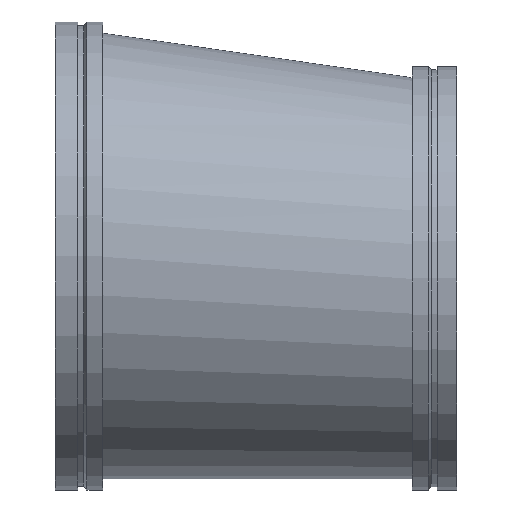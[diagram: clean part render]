
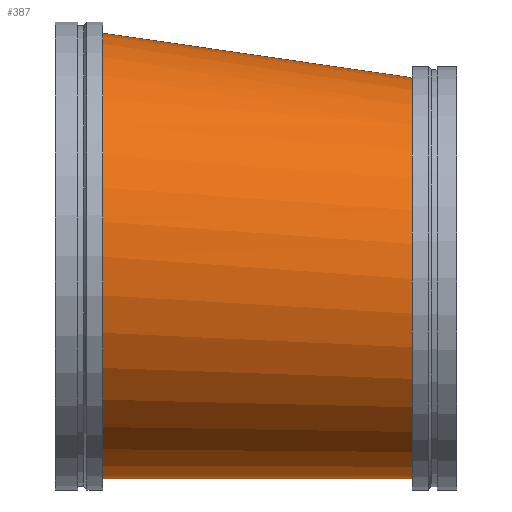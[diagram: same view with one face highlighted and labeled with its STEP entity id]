
A CAD part, top view. The second image highlights one B-rep face of the part: STEP entity #387.
In plain terms, the highlighted free-form (B-spline) face has degree [1, 2] with [2, 9] control points.
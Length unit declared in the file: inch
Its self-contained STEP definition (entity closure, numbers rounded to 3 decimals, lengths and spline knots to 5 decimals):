
#46=B_SPLINE_CURVE_WITH_KNOTS('',1,(#747,#748),.UNSPECIFIED.,.F.,.F.,(2,
2),(-1.395,-0.00037),.UNSPECIFIED.);
#48=(
BOUNDED_SURFACE()
B_SPLINE_SURFACE(1,2,((#729,#730,#731,#732,#733,#734,#735,#736,#737),(#738,
#739,#740,#741,#742,#743,#744,#745,#746)),.UNSPECIFIED.,.F.,.T.,.F.)
B_SPLINE_SURFACE_WITH_KNOTS((2,2),(3,2,2,2,3),(-0.0717,1.4592),
(-3.14159,-1.5708,0.,1.5708,3.14159),
 .UNSPECIFIED.)
GEOMETRIC_REPRESENTATION_ITEM()
RATIONAL_B_SPLINE_SURFACE(((1.,0.707,1.,0.707,1.,
0.707,1.,0.707,1.),(1.,0.707,1.,0.707,
1.,0.707,1.,0.707,1.)))
REPRESENTATION_ITEM('')
SURFACE()
);
#98=FACE_OUTER_BOUND('',#120,.T.);
#120=EDGE_LOOP('',(#321,#322,#323,#324,#325,#326));
#129=CIRCLE('',#415,18.);
#130=CIRCLE('',#416,18.);
#153=CIRCLE('',#450,20.);
#154=CIRCLE('',#451,20.);
#166=VERTEX_POINT('',#628);
#167=VERTEX_POINT('',#629);
#190=VERTEX_POINT('',#695);
#191=VERTEX_POINT('',#696);
#203=EDGE_CURVE('',#166,#167,#129,.T.);
#204=EDGE_CURVE('',#167,#166,#130,.T.);
#235=EDGE_CURVE('',#190,#191,#153,.T.);
#236=EDGE_CURVE('',#191,#190,#154,.T.);
#243=EDGE_CURVE('',#167,#191,#46,.T.);
#321=ORIENTED_EDGE('',*,*,#203,.T.);
#322=ORIENTED_EDGE('',*,*,#243,.T.);
#323=ORIENTED_EDGE('',*,*,#236,.T.);
#324=ORIENTED_EDGE('',*,*,#235,.T.);
#325=ORIENTED_EDGE('',*,*,#243,.F.);
#326=ORIENTED_EDGE('',*,*,#204,.T.);
#387=ADVANCED_FACE('',(#98),#48,.F.);
#415=AXIS2_PLACEMENT_3D('',#630,#486,#487);
#416=AXIS2_PLACEMENT_3D('',#631,#488,#489);
#450=AXIS2_PLACEMENT_3D('',#697,#564,#565);
#451=AXIS2_PLACEMENT_3D('',#698,#566,#567);
#486=DIRECTION('center_axis',(-1.,0.,0.));
#487=DIRECTION('ref_axis',(0.,-1.,0.));
#488=DIRECTION('center_axis',(-1.,0.,0.));
#489=DIRECTION('ref_axis',(0.,-1.,0.));
#564=DIRECTION('center_axis',(1.,0.,0.));
#565=DIRECTION('ref_axis',(0.,1.,0.));
#566=DIRECTION('center_axis',(1.,0.,0.));
#567=DIRECTION('ref_axis',(0.,1.,0.));
#628=CARTESIAN_POINT('',(32.,-20.,0.));
#629=CARTESIAN_POINT('',(32.,-2.09254,17.99976));
#630=CARTESIAN_POINT('Origin',(32.,-2.,0.));
#631=CARTESIAN_POINT('Origin',(32.,-2.,0.));
#695=CARTESIAN_POINT('',(4.25,20.,0.));
#696=CARTESIAN_POINT('',(4.25,-0.10282,19.99974));
#697=CARTESIAN_POINT('Origin',(4.25,0.,0.));
#698=CARTESIAN_POINT('Origin',(4.25,0.,0.));
#729=CARTESIAN_POINT('Ctrl Pts',(2.81597,0.,
20.10309));
#730=CARTESIAN_POINT('Ctrl Pts',(1.38194,-20.,20.10309));
#731=CARTESIAN_POINT('Ctrl Pts',(1.38194,-20.,0.));
#732=CARTESIAN_POINT('Ctrl Pts',(1.38194,-20.,-20.10309));
#733=CARTESIAN_POINT('Ctrl Pts',(2.81597,0.,
-20.10309));
#734=CARTESIAN_POINT('Ctrl Pts',(4.25,20.,-20.10309));
#735=CARTESIAN_POINT('Ctrl Pts',(4.25,20.,0.));
#736=CARTESIAN_POINT('Ctrl Pts',(4.25,20.,20.10309));
#737=CARTESIAN_POINT('Ctrl Pts',(2.81597,0.,
20.10309));
#738=CARTESIAN_POINT('Ctrl Pts',(33.27743,-2.18413,17.9077));
#739=CARTESIAN_POINT('Ctrl Pts',(32.,-20.,17.9077));
#740=CARTESIAN_POINT('Ctrl Pts',(32.,-20.,0.));
#741=CARTESIAN_POINT('Ctrl Pts',(32.,-20.,-17.9077));
#742=CARTESIAN_POINT('Ctrl Pts',(33.27743,-2.18413,-17.9077));
#743=CARTESIAN_POINT('Ctrl Pts',(34.55485,15.63173,-17.9077));
#744=CARTESIAN_POINT('Ctrl Pts',(34.55485,15.63173,0.));
#745=CARTESIAN_POINT('Ctrl Pts',(34.55485,15.63173,17.9077));
#746=CARTESIAN_POINT('Ctrl Pts',(33.27743,-2.18413,17.9077));
#747=CARTESIAN_POINT('Ctrl Pts',(32.,-2.09254,17.99976));
#748=CARTESIAN_POINT('Ctrl Pts',(4.25,-0.10282,19.99974));
